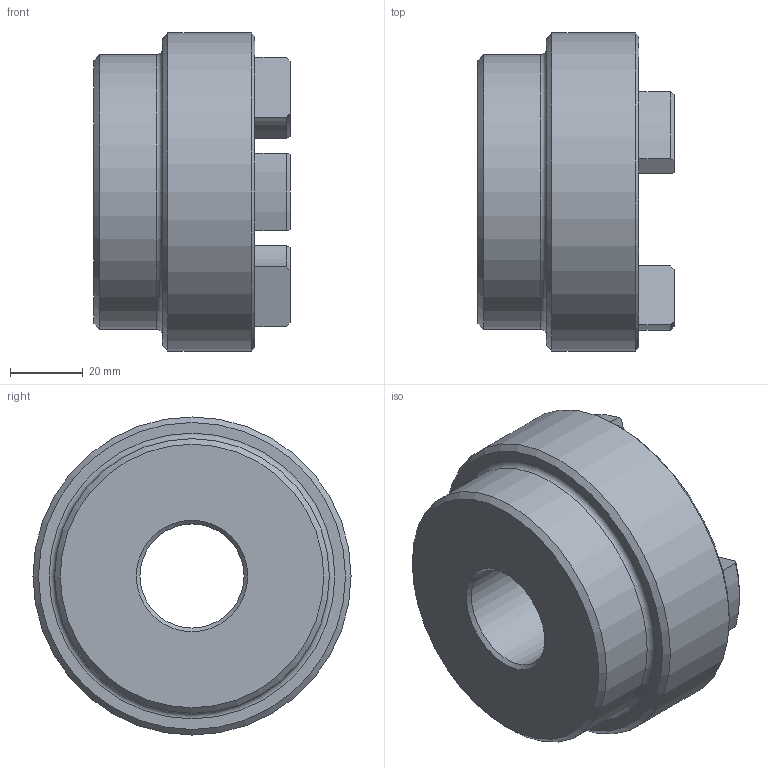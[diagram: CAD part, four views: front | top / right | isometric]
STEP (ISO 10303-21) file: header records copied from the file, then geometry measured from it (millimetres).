
FILE_DESCRIPTION (( 'STEP AP203' ), '1' );
FILE_NAME ('RC3.step', '2024-07-24T12:47:27', ( 'Adlan' ), ( '' ), 'SwSTEP 2.0', 'SolidWorks 2013', '' );
FILE_SCHEMA (( 'CONFIG_CONTROL_DESIGN' ));
Length unit declared in the file: inch
Products named in the file (1): RC3
Bounding box: 53.85 x 87.38 x 87.38 mm (x, y, z)
Volume: 175465.7 mm3; surface area: 29747.4 mm2
Topology: 1 solids, 1 shells, 60 faces, 146 edges, 90 vertices
Faces by surface type: cylinder 24, plane 13, torus 13, cone 10
Full cylindrical faces by diameter (mm): 28.588 x1, 75.438 x1, 87.376 x1
Entity records: 1841 total; most frequent: CARTESIAN_POINT 341, DIRECTION 324, ORIENTED_EDGE 274, EDGE_CURVE 137, AXIS2_PLACEMENT_3D 132, VERTEX_POINT 89, EDGE_LOOP 72, CIRCLE 71
